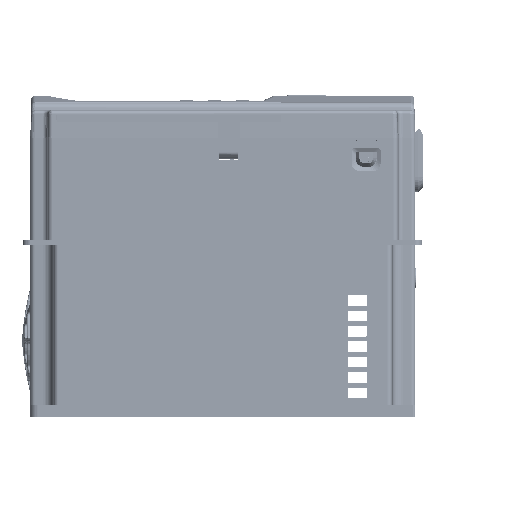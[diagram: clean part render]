
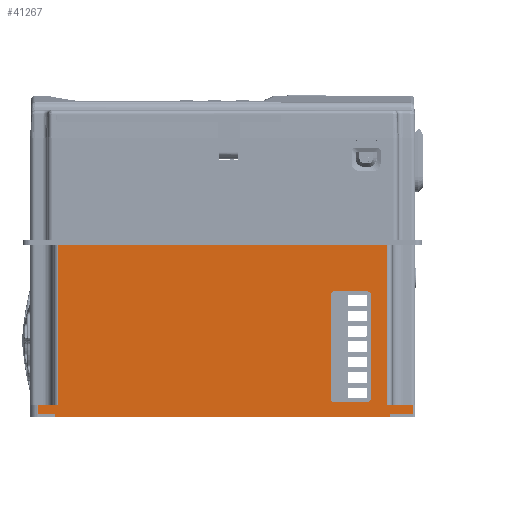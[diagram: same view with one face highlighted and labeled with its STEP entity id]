
A CAD part, left-side view. The second image highlights one B-rep face of the part: STEP entity #41267.
In plain terms, the highlighted planar face has unit normal (-1, 0, 0).
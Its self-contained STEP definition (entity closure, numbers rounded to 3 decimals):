
#3390=DIRECTION('',(0.,1.,0.));
#3391=VECTOR('',#3390,10.51);
#3392=CARTESIAN_POINT('',(-49.283,125.068,
-140.1));
#3393=LINE('',#3392,#3391);
#5006=DIRECTION('',(0.,-1.,0.));
#5007=VECTOR('',#5006,11.65);
#5008=CARTESIAN_POINT('',(-49.283,-47.322,
-145.1));
#5009=LINE('',#5008,#5007);
#8122=DIRECTION('',(0.,-1.,0.));
#8123=VECTOR('',#8122,8.967);
#8124=CARTESIAN_POINT('',(-49.283,135.578,
-145.1));
#8125=LINE('',#8124,#8123);
#8241=DIRECTION('',(0.,0.,-1.));
#8242=VECTOR('',#8241,5.);
#8243=CARTESIAN_POINT('',(-49.283,135.578,
-140.1));
#8244=LINE('',#8243,#8242);
#8248=DIRECTION('',(0.,-1.,0.));
#8249=VECTOR('',#8248,170.88);
#8250=CARTESIAN_POINT('',(-49.283,125.068,
-57.1));
#8251=LINE('',#8250,#8249);
#8255=DIRECTION('',(0.,0.,1.));
#8256=VECTOR('',#8255,1.3);
#8257=CARTESIAN_POINT('',(-49.283,126.611,
-146.4));
#8258=LINE('',#8257,#8256);
#8262=DIRECTION('',(0.,1.,0.));
#8263=VECTOR('',#8262,17.);
#8264=CARTESIAN_POINT('',(-49.283,-35.322,
-81.15));
#8265=LINE('',#8264,#8263);
#8269=CARTESIAN_POINT('',(-49.283,-18.322,
-83.15));
#8270=DIRECTION('',(-1.,0.,0.));
#8271=DIRECTION('',(0.,0.,1.));
#8272=AXIS2_PLACEMENT_3D('',#8269,#8270,#8271);
#8277=DIRECTION('',(0.,0.,-1.));
#8278=VECTOR('',#8277,53.5);
#8279=CARTESIAN_POINT('',(-49.283,-16.322,
-83.15));
#8280=LINE('',#8279,#8278);
#8284=CARTESIAN_POINT('',(-49.283,-18.322,
-136.65));
#8285=DIRECTION('',(-1.,0.,0.));
#8286=DIRECTION('',(0.,1.,0.));
#8287=AXIS2_PLACEMENT_3D('',#8284,#8285,#8286);
#8292=DIRECTION('',(0.,-1.,0.));
#8293=VECTOR('',#8292,17.);
#8294=CARTESIAN_POINT('',(-49.283,-18.322,
-138.65));
#8295=LINE('',#8294,#8293);
#8299=CARTESIAN_POINT('',(-49.283,-35.322,
-136.65));
#8300=DIRECTION('',(-1.,0.,0.));
#8301=DIRECTION('',(0.,0.,-1.));
#8302=AXIS2_PLACEMENT_3D('',#8299,#8300,#8301);
#8307=DIRECTION('',(0.,0.,1.));
#8308=VECTOR('',#8307,53.5);
#8309=CARTESIAN_POINT('',(-49.283,-37.322,
-136.65));
#8310=LINE('',#8309,#8308);
#8314=CARTESIAN_POINT('',(-49.283,-35.322,
-83.15));
#8315=DIRECTION('',(-1.,0.,0.));
#8316=DIRECTION('',(0.,-1.,0.));
#8317=AXIS2_PLACEMENT_3D('',#8314,#8315,#8316);
#8329=DIRECTION('',(0.,0.,-1.));
#8330=VECTOR('',#8329,83.);
#8331=CARTESIAN_POINT('',(-49.283,125.068,
-57.1));
#8332=LINE('',#8331,#8330);
#8350=DIRECTION('',(0.,0.,1.));
#8351=VECTOR('',#8350,83.);
#8352=CARTESIAN_POINT('',(-49.283,-45.812,
-140.1));
#8353=LINE('',#8352,#8351);
#8364=DIRECTION('',(0.,1.,0.));
#8365=VECTOR('',#8364,13.16);
#8366=CARTESIAN_POINT('',(-49.283,-58.972,
-140.1));
#8367=LINE('',#8366,#8365);
#17603=DIRECTION('',(0.,0.,1.));
#17604=VECTOR('',#17603,5.);
#17605=CARTESIAN_POINT('',(-49.283,-58.972,
-145.1));
#17606=LINE('',#17605,#17604);
#22432=DIRECTION('',(0.,0.,1.));
#22433=VECTOR('',#22432,1.3);
#22434=CARTESIAN_POINT('',(-49.283,-47.322,
-146.4));
#22435=LINE('',#22434,#22433);
#22446=DIRECTION('',(0.,-1.,0.));
#22447=VECTOR('',#22446,173.933);
#22448=CARTESIAN_POINT('',(-49.283,126.611,
-146.4));
#22449=LINE('',#22448,#22447);
#31327=CARTESIAN_POINT('',(-49.283,-45.812,
-57.1));
#31328=VERTEX_POINT('',#31327);
#31329=CARTESIAN_POINT('',(-49.283,125.068,
-57.1));
#31330=VERTEX_POINT('',#31329);
#31347=CARTESIAN_POINT('',(-49.283,125.068,
-140.1));
#31348=VERTEX_POINT('',#31347);
#31349=CARTESIAN_POINT('',(-49.283,135.578,
-140.1));
#31350=VERTEX_POINT('',#31349);
#31773=CARTESIAN_POINT('',(-49.283,-47.322,
-145.1));
#31774=VERTEX_POINT('',#31773);
#31775=CARTESIAN_POINT('',(-49.283,-58.972,
-145.1));
#31776=VERTEX_POINT('',#31775);
#32363=CARTESIAN_POINT('',(-49.283,135.578,
-145.1));
#32364=VERTEX_POINT('',#32363);
#32365=CARTESIAN_POINT('',(-49.283,126.611,
-145.1));
#32366=VERTEX_POINT('',#32365);
#32393=CARTESIAN_POINT('',(-49.283,-45.812,
-140.1));
#32394=VERTEX_POINT('',#32393);
#32395=CARTESIAN_POINT('',(-49.283,-58.972,
-140.1));
#32396=VERTEX_POINT('',#32395);
#32397=CARTESIAN_POINT('',(-49.283,-47.322,
-146.4));
#32398=VERTEX_POINT('',#32397);
#32399=CARTESIAN_POINT('',(-49.283,126.611,
-146.4));
#32400=VERTEX_POINT('',#32399);
#32401=CARTESIAN_POINT('',(-49.283,-35.322,
-81.15));
#32402=CARTESIAN_POINT('',(-49.283,-18.322,
-81.15));
#32403=VERTEX_POINT('',#32401);
#32404=VERTEX_POINT('',#32402);
#32405=CARTESIAN_POINT('',(-49.283,-16.322,
-83.15));
#32406=VERTEX_POINT('',#32405);
#32407=CARTESIAN_POINT('',(-49.283,-16.322,
-136.65));
#32408=VERTEX_POINT('',#32407);
#32409=CARTESIAN_POINT('',(-49.283,-18.322,
-138.65));
#32410=VERTEX_POINT('',#32409);
#32411=CARTESIAN_POINT('',(-49.283,-35.322,
-138.65));
#32412=VERTEX_POINT('',#32411);
#32413=CARTESIAN_POINT('',(-49.283,-37.322,
-136.65));
#32414=VERTEX_POINT('',#32413);
#32415=CARTESIAN_POINT('',(-49.283,-37.322,
-83.15));
#32416=VERTEX_POINT('',#32415);
#41223=CARTESIAN_POINT('',(-49.283,-48.816,
-104.6));
#41224=DIRECTION('',(1.,0.,0.));
#41225=DIRECTION('',(0.,0.,1.));
#41226=AXIS2_PLACEMENT_3D('',#41223,#41224,#41225);
#41227=PLANE('',#41226);
#41228=ORIENTED_EDGE('',*,*,#41165,.F.);
#41229=ORIENTED_EDGE('',*,*,#41218,.F.);
#41230=ORIENTED_EDGE('',*,*,#37941,.F.);
#41232=ORIENTED_EDGE('',*,*,#41231,.F.);
#41233=ORIENTED_EDGE('',*,*,#37572,.T.);
#41235=ORIENTED_EDGE('',*,*,#41234,.F.);
#41237=ORIENTED_EDGE('',*,*,#41236,.F.);
#41239=ORIENTED_EDGE('',*,*,#41238,.F.);
#41240=ORIENTED_EDGE('',*,*,#39097,.F.);
#41242=ORIENTED_EDGE('',*,*,#41241,.F.);
#41244=ORIENTED_EDGE('',*,*,#41243,.F.);
#41246=ORIENTED_EDGE('',*,*,#41245,.T.);
#41247=EDGE_LOOP('',(#41228,#41229,#41230,#41232,#41233,#41235,#41237,#41239,
#41240,#41242,#41244,#41246));
#41248=FACE_OUTER_BOUND('',#41247,.F.);
#41250=ORIENTED_EDGE('',*,*,#41249,.T.);
#41252=ORIENTED_EDGE('',*,*,#41251,.T.);
#41254=ORIENTED_EDGE('',*,*,#41253,.T.);
#41256=ORIENTED_EDGE('',*,*,#41255,.T.);
#41258=ORIENTED_EDGE('',*,*,#41257,.T.);
#41260=ORIENTED_EDGE('',*,*,#41259,.T.);
#41262=ORIENTED_EDGE('',*,*,#41261,.T.);
#41264=ORIENTED_EDGE('',*,*,#41263,.T.);
#41265=EDGE_LOOP('',(#41250,#41252,#41254,#41256,#41258,#41260,#41262,#41264));
#41266=FACE_BOUND('',#41265,.F.);
#41267=ADVANCED_FACE('',(#41248,#41266),#41227,.F.);
#8273=CIRCLE('',#8272,2.);
#8288=CIRCLE('',#8287,2.);
#8303=CIRCLE('',#8302,2.);
#8318=CIRCLE('',#8317,2.);
#37572=EDGE_CURVE('',#31330,#31328,#8251,.T.);
#37941=EDGE_CURVE('',#31348,#31350,#3393,.T.);
#39097=EDGE_CURVE('',#31774,#31776,#5009,.T.);
#41165=EDGE_CURVE('',#32364,#32366,#8125,.T.);
#41218=EDGE_CURVE('',#31350,#32364,#8244,.T.);
#41231=EDGE_CURVE('',#31330,#31348,#8332,.T.);
#41234=EDGE_CURVE('',#32394,#31328,#8353,.T.);
#41236=EDGE_CURVE('',#32396,#32394,#8367,.T.);
#41238=EDGE_CURVE('',#31776,#32396,#17606,.T.);
#41241=EDGE_CURVE('',#32398,#31774,#22435,.T.);
#41243=EDGE_CURVE('',#32400,#32398,#22449,.T.);
#41245=EDGE_CURVE('',#32400,#32366,#8258,.T.);
#41249=EDGE_CURVE('',#32403,#32404,#8265,.T.);
#41251=EDGE_CURVE('',#32404,#32406,#8273,.T.);
#41253=EDGE_CURVE('',#32406,#32408,#8280,.T.);
#41255=EDGE_CURVE('',#32408,#32410,#8288,.T.);
#41257=EDGE_CURVE('',#32410,#32412,#8295,.T.);
#41259=EDGE_CURVE('',#32412,#32414,#8303,.T.);
#41261=EDGE_CURVE('',#32414,#32416,#8310,.T.);
#41263=EDGE_CURVE('',#32416,#32403,#8318,.T.);
